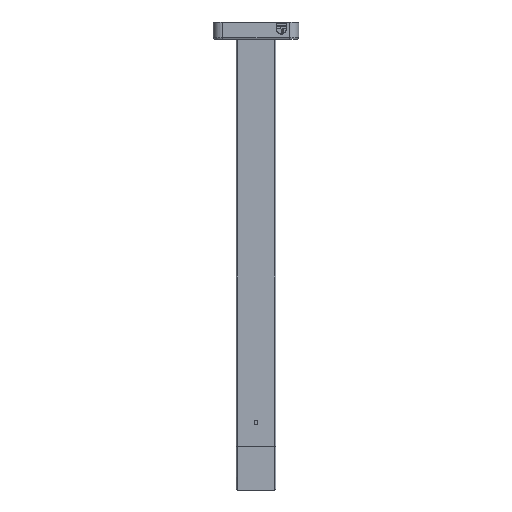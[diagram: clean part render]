
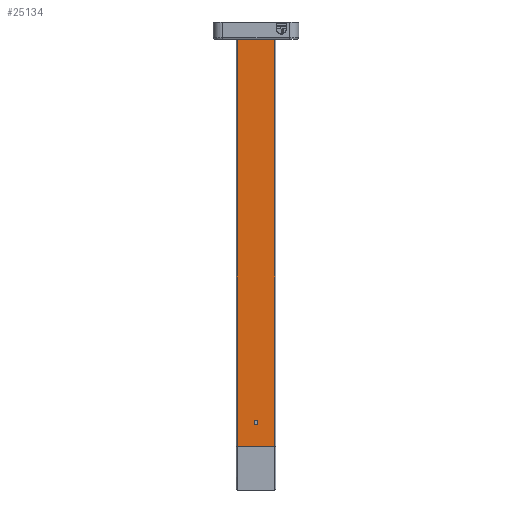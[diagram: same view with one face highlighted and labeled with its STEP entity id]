
A CAD part, front view. The second image highlights one B-rep face of the part: STEP entity #25134.
In plain terms, the highlighted planar face has unit normal (0, -1, 0).
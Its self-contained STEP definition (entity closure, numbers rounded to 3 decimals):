
#976 = DIRECTION ( 'NONE',  ( 1., 0., 0. ) ) ;
#1749 = CARTESIAN_POINT ( 'NONE',  ( 498.6, -15., 0. ) ) ;
#1985 = CARTESIAN_POINT ( 'NONE',  ( 0., -15., 23.5 ) ) ;
#2302 = CIRCLE ( 'NONE', #26774, 2.5 ) ;
#3260 = AXIS2_PLACEMENT_3D ( 'NONE', #1749, #25146, #36827 ) ;
#3353 = LINE ( 'NONE', #10041, #32890 ) ;
#3799 = VECTOR ( 'NONE', #22685, 1000. ) ;
#4040 = LINE ( 'NONE', #33350, #23650 ) ;
#4146 = DIRECTION ( 'NONE',  ( 1., 0., 0. ) ) ;
#6701 = LINE ( 'NONE', #12859, #12512 ) ;
#7226 = VERTEX_POINT ( 'NONE', #31982 ) ;
#7728 = CARTESIAN_POINT ( 'NONE',  ( 0., -15., 25. ) ) ;
#7935 = CARTESIAN_POINT ( 'NONE',  ( 0., -15., -23.5 ) ) ;
#8526 = EDGE_LOOP ( 'NONE', ( #14788, #19576, #14852, #33089, #37588, #20529, #10376, #34153 ) ) ;
#9163 = CARTESIAN_POINT ( 'NONE',  ( 8., -15., 17.75 ) ) ;
#9465 = VERTEX_POINT ( 'NONE', #7935 ) ;
#10041 = CARTESIAN_POINT ( 'NONE',  ( 528.6, -15., 25. ) ) ;
#10328 = AXIS2_PLACEMENT_3D ( 'NONE', #17566, #21011, #11637 ) ;
#10376 = ORIENTED_EDGE ( 'NONE', *, *, #29053, .T. ) ;
#10681 = VERTEX_POINT ( 'NONE', #23037 ) ;
#11182 = EDGE_CURVE ( 'NONE', #36648, #17811, #15635, .T. ) ;
#11637 = DIRECTION ( 'NONE',  ( 0., 0., 1. ) ) ;
#12512 = VECTOR ( 'NONE', #13246, 1000. ) ;
#12751 = CARTESIAN_POINT ( 'NONE',  ( 498.6, -15., 0. ) ) ;
#12859 = CARTESIAN_POINT ( 'NONE',  ( 528.6, -15., 23.5 ) ) ;
#12979 = EDGE_CURVE ( 'NONE', #9465, #10681, #4040, .T. ) ;
#13246 = DIRECTION ( 'NONE',  ( -1., 0., 0. ) ) ;
#13857 = VERTEX_POINT ( 'NONE', #1985 ) ;
#14252 = LINE ( 'NONE', #7728, #3799 ) ;
#14272 = EDGE_CURVE ( 'NONE', #7226, #9465, #36017, .T. ) ;
#14327 = AXIS2_PLACEMENT_3D ( 'NONE', #34275, #30836, #16263 ) ;
#14788 = ORIENTED_EDGE ( 'NONE', *, *, #18477, .T. ) ;
#14852 = ORIENTED_EDGE ( 'NONE', *, *, #14272, .T. ) ;
#15635 = LINE ( 'NONE', #19269, #28799 ) ;
#16263 = DIRECTION ( 'NONE',  ( 0., 0., 1. ) ) ;
#16580 = LINE ( 'NONE', #33649, #20488 ) ;
#16609 = EDGE_CURVE ( 'NONE', #25881, #19195, #2302, .T. ) ;
#16661 = EDGE_CURVE ( 'NONE', #28599, #10681, #3353, .T. ) ;
#16894 = ORIENTED_EDGE ( 'NONE', *, *, #22748, .F. ) ;
#17566 = CARTESIAN_POINT ( 'NONE',  ( 8., -15., 11. ) ) ;
#17811 = VERTEX_POINT ( 'NONE', #9163 ) ;
#17986 = CARTESIAN_POINT ( 'NONE',  ( 0., -15., 25. ) ) ;
#18458 = DIRECTION ( 'NONE',  ( 0., 0., -1. ) ) ;
#18477 = EDGE_CURVE ( 'NONE', #17811, #21839, #36056, .T. ) ;
#19195 = VERTEX_POINT ( 'NONE', #22967 ) ;
#19269 = CARTESIAN_POINT ( 'NONE',  ( 8., -15., 17.75 ) ) ;
#19576 = ORIENTED_EDGE ( 'NONE', *, *, #31288, .T. ) ;
#19791 = CIRCLE ( 'NONE', #3260, 2.5 ) ;
#20488 = VECTOR ( 'NONE', #36733, 1000. ) ;
#20529 = ORIENTED_EDGE ( 'NONE', *, *, #25735, .T. ) ;
#21011 = DIRECTION ( 'NONE',  ( 0., 1., 0. ) ) ;
#21365 = DIRECTION ( 'NONE',  ( 0., 0., -1. ) ) ;
#21839 = VERTEX_POINT ( 'NONE', #28939 ) ;
#21918 = ORIENTED_EDGE ( 'NONE', *, *, #16609, .F. ) ;
#22418 = FACE_BOUND ( 'NONE', #23136, .T. ) ;
#22685 = DIRECTION ( 'NONE',  ( 0., 0., -1. ) ) ;
#22748 = EDGE_CURVE ( 'NONE', #19195, #25881, #19791, .T. ) ;
#22967 = CARTESIAN_POINT ( 'NONE',  ( 498.6, -15., 2.5 ) ) ;
#23037 = CARTESIAN_POINT ( 'NONE',  ( 528.6, -15., -23.5 ) ) ;
#23136 = EDGE_LOOP ( 'NONE', ( #21918, #16894 ) ) ;
#23650 = VECTOR ( 'NONE', #976, 1000. ) ;
#23951 = DIRECTION ( 'NONE',  ( 0., 0., -1. ) ) ;
#25134 = ADVANCED_FACE ( 'NONE', ( #22418, #28542 ), #34463, .F. ) ;
#25146 = DIRECTION ( 'NONE',  ( 0., -1., 0. ) ) ;
#25684 = CARTESIAN_POINT ( 'NONE',  ( 498.6, -15., -2.5 ) ) ;
#25735 = EDGE_CURVE ( 'NONE', #28599, #13857, #6701, .T. ) ;
#25881 = VERTEX_POINT ( 'NONE', #25684 ) ;
#26751 = VECTOR ( 'NONE', #23951, 1000. ) ;
#26774 = AXIS2_PLACEMENT_3D ( 'NONE', #12751, #32663, #18458 ) ;
#28542 = FACE_OUTER_BOUND ( 'NONE', #8526, .T. ) ;
#28599 = VERTEX_POINT ( 'NONE', #31203 ) ;
#28799 = VECTOR ( 'NONE', #4146, 1000. ) ;
#28939 = CARTESIAN_POINT ( 'NONE',  ( 8., -15., 4.25 ) ) ;
#29053 = EDGE_CURVE ( 'NONE', #13857, #36648, #14252, .T. ) ;
#30836 = DIRECTION ( 'NONE',  ( 0., 1., 0. ) ) ;
#31203 = CARTESIAN_POINT ( 'NONE',  ( 528.6, -15., 23.5 ) ) ;
#31288 = EDGE_CURVE ( 'NONE', #21839, #7226, #16580, .T. ) ;
#31982 = CARTESIAN_POINT ( 'NONE',  ( 0., -15., 4.25 ) ) ;
#32663 = DIRECTION ( 'NONE',  ( 0., -1., 0. ) ) ;
#32890 = VECTOR ( 'NONE', #21365, 1000. ) ;
#33089 = ORIENTED_EDGE ( 'NONE', *, *, #12979, .T. ) ;
#33350 = CARTESIAN_POINT ( 'NONE',  ( 528.6, -15., -23.5 ) ) ;
#33649 = CARTESIAN_POINT ( 'NONE',  ( 0., -15., 4.25 ) ) ;
#34153 = ORIENTED_EDGE ( 'NONE', *, *, #11182, .T. ) ;
#34275 = CARTESIAN_POINT ( 'NONE',  ( 528.6, -15., 25. ) ) ;
#34463 = PLANE ( 'NONE',  #14327 ) ;
#36017 = LINE ( 'NONE', #17986, #26751 ) ;
#36056 = CIRCLE ( 'NONE', #10328, 6.75 ) ;
#36524 = CARTESIAN_POINT ( 'NONE',  ( 0., -15., 17.75 ) ) ;
#36648 = VERTEX_POINT ( 'NONE', #36524 ) ;
#36733 = DIRECTION ( 'NONE',  ( -1., 0., 0. ) ) ;
#36827 = DIRECTION ( 'NONE',  ( 0., 0., -1. ) ) ;
#37588 = ORIENTED_EDGE ( 'NONE', *, *, #16661, .F. ) ;
